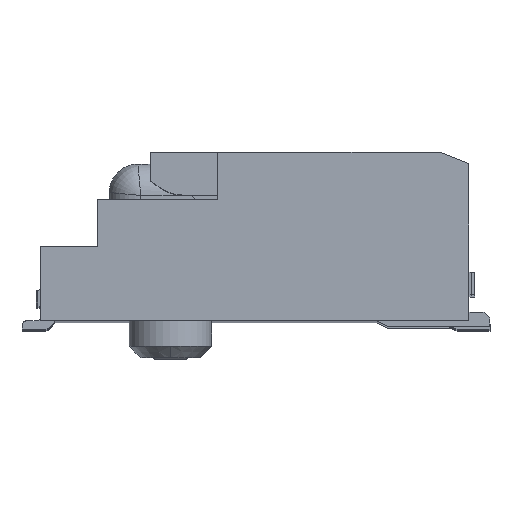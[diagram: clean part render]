
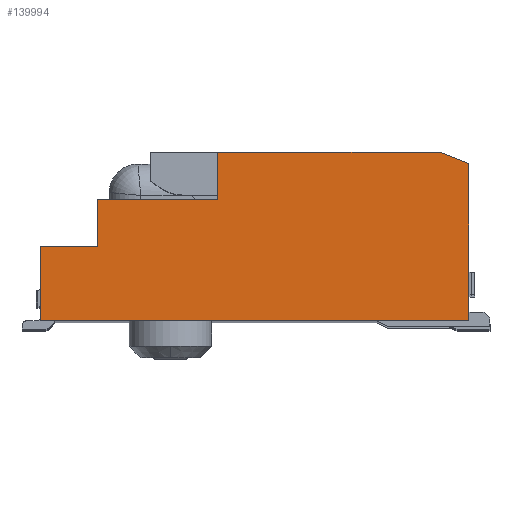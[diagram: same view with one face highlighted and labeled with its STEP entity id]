
A CAD part, top view. The second image highlights one B-rep face of the part: STEP entity #139994.
In plain terms, the highlighted planar face has unit normal (0, 0, 1).
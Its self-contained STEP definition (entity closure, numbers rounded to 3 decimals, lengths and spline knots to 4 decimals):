
#6423=DIRECTION('',(0.,-1.,0.));
#6424=VECTOR('',#6423,1.3);
#6425=CARTESIAN_POINT('',(-21.5805,7.3069,10.9));
#6426=LINE('',#6425,#6424);
#23593=DIRECTION('',(1.,0.,0.));
#23594=VECTOR('',#23593,7.5);
#23595=CARTESIAN_POINT('',(-21.5805,6.0069,10.9));
#23596=LINE('',#23595,#23594);
#27450=DIRECTION('',(-1.,0.,0.));
#27451=VECTOR('',#27450,2.095);
#27452=CARTESIAN_POINT('',(-18.4855,8.1269,10.9));
#27453=LINE('',#27452,#27451);
#27458=DIRECTION('',(0.,-1.,0.));
#27459=VECTOR('',#27458,0.83);
#27460=CARTESIAN_POINT('',(-18.4855,8.9569,10.9));
#27461=LINE('',#27460,#27459);
#27498=DIRECTION('',(1.,0.,0.));
#27499=VECTOR('',#27498,3.905);
#27500=CARTESIAN_POINT('',(-18.4855,8.9569,10.9));
#27501=LINE('',#27500,#27499);
#27502=DIRECTION('',(0.928,-0.371,0.));
#27503=VECTOR('',#27502,0.5385);
#27504=CARTESIAN_POINT('',(-14.5805,8.9569,10.9));
#27505=LINE('',#27504,#27503);
#27506=DIRECTION('',(0.,-1.,0.));
#27507=VECTOR('',#27506,2.75);
#27508=CARTESIAN_POINT('',(-14.0805,8.7569,10.9));
#27509=LINE('',#27508,#27507);
#27518=DIRECTION('',(-1.,0.,0.));
#27519=VECTOR('',#27518,1.);
#27520=CARTESIAN_POINT('',(-20.5805,7.3069,10.9));
#27521=LINE('',#27520,#27519);
#27526=DIRECTION('',(0.,-1.,0.));
#27527=VECTOR('',#27526,0.82);
#27528=CARTESIAN_POINT('',(-20.5805,8.1269,10.9));
#27529=LINE('',#27528,#27527);
#92055=CARTESIAN_POINT('',(-21.5805,7.3069,10.9));
#92056=VERTEX_POINT('',#92055);
#92057=CARTESIAN_POINT('',(-21.5805,6.0069,10.9));
#92058=VERTEX_POINT('',#92057);
#92328=CARTESIAN_POINT('',(-14.0805,6.0069,10.9));
#92329=VERTEX_POINT('',#92328);
#93819=CARTESIAN_POINT('',(-18.4855,8.1269,10.9));
#93820=VERTEX_POINT('',#93819);
#93821=CARTESIAN_POINT('',(-20.5805,8.1269,10.9));
#93822=VERTEX_POINT('',#93821);
#93823=CARTESIAN_POINT('',(-18.4855,8.9569,10.9));
#93825=VERTEX_POINT('',#93823);
#93829=CARTESIAN_POINT('',(-14.5805,8.9569,10.9));
#93831=VERTEX_POINT('',#93829);
#93841=CARTESIAN_POINT('',(-14.0805,8.7569,10.9));
#93842=VERTEX_POINT('',#93841);
#93845=CARTESIAN_POINT('',(-20.5805,7.3069,10.9));
#93846=VERTEX_POINT('',#93845);
#139975=CARTESIAN_POINT('',(-21.5805,6.0069,10.9));
#139976=DIRECTION('',(0.,0.,-1.));
#139977=DIRECTION('',(1.,0.,0.));
#139978=AXIS2_PLACEMENT_3D('',#139975,#139976,#139977);
#139979=PLANE('',#139978);
#139980=ORIENTED_EDGE('',*,*,#135444,.F.);
#139981=ORIENTED_EDGE('',*,*,#120738,.F.);
#139983=ORIENTED_EDGE('',*,*,#139982,.F.);
#139985=ORIENTED_EDGE('',*,*,#139984,.F.);
#139986=ORIENTED_EDGE('',*,*,#139912,.F.);
#139987=ORIENTED_EDGE('',*,*,#139926,.F.);
#139988=ORIENTED_EDGE('',*,*,#139944,.T.);
#139989=ORIENTED_EDGE('',*,*,#139965,.T.);
#139991=ORIENTED_EDGE('',*,*,#139990,.T.);
#139992=EDGE_LOOP('',(#139980,#139981,#139983,#139985,#139986,#139987,#139988,
#139989,#139991));
#139993=FACE_OUTER_BOUND('',#139992,.F.);
#139994=ADVANCED_FACE('',(#139993),#139979,.F.);
#120738=EDGE_CURVE('',#92056,#92058,#6426,.T.);
#135444=EDGE_CURVE('',#92058,#92329,#23596,.T.);
#139912=EDGE_CURVE('',#93820,#93822,#27453,.T.);
#139926=EDGE_CURVE('',#93825,#93820,#27461,.T.);
#139944=EDGE_CURVE('',#93825,#93831,#27501,.T.);
#139965=EDGE_CURVE('',#93831,#93842,#27505,.T.);
#139982=EDGE_CURVE('',#93846,#92056,#27521,.T.);
#139984=EDGE_CURVE('',#93822,#93846,#27529,.T.);
#139990=EDGE_CURVE('',#93842,#92329,#27509,.T.);
